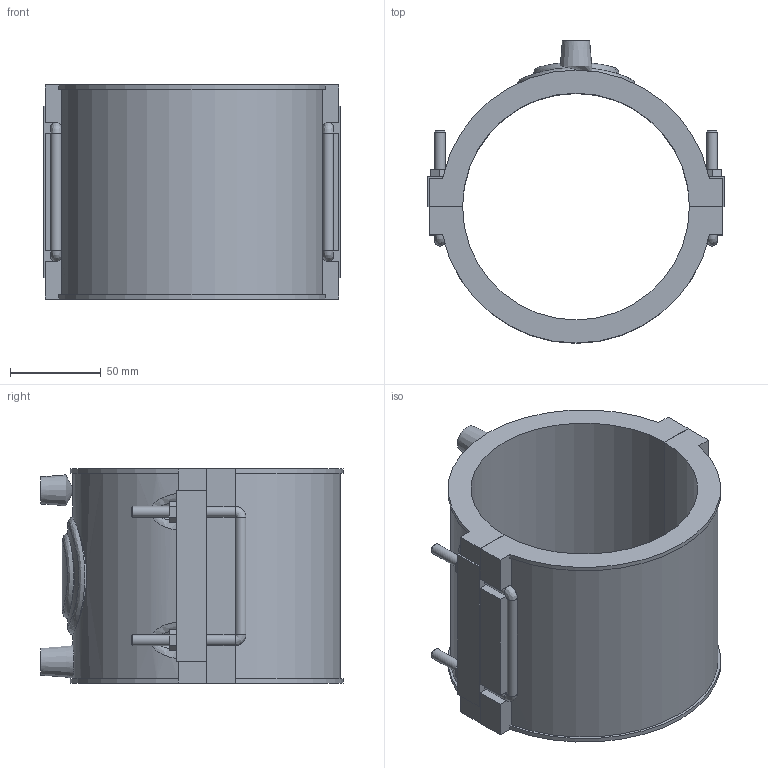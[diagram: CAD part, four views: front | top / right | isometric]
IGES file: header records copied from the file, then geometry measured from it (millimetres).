
Global section: file name: 495204125.ipt; native system: Autodesk Inventor 2015; preprocessor: unknown; author: KIM; date: 20171106.094229; units: millimetre
Bounding box: 164 x 166.72 x 118 mm (x, y, z)
Volume: 658164 mm3; surface area: 136780.8 mm2
Topology: 2 solids, 2 shells, 141 faces, 366 edges, 232 vertices
Faces by surface type: plane 88, cylinder 25, revolution 12, bspline 10, cone 6
Full cylindrical faces by diameter (mm): 4 x2, 6 x10
